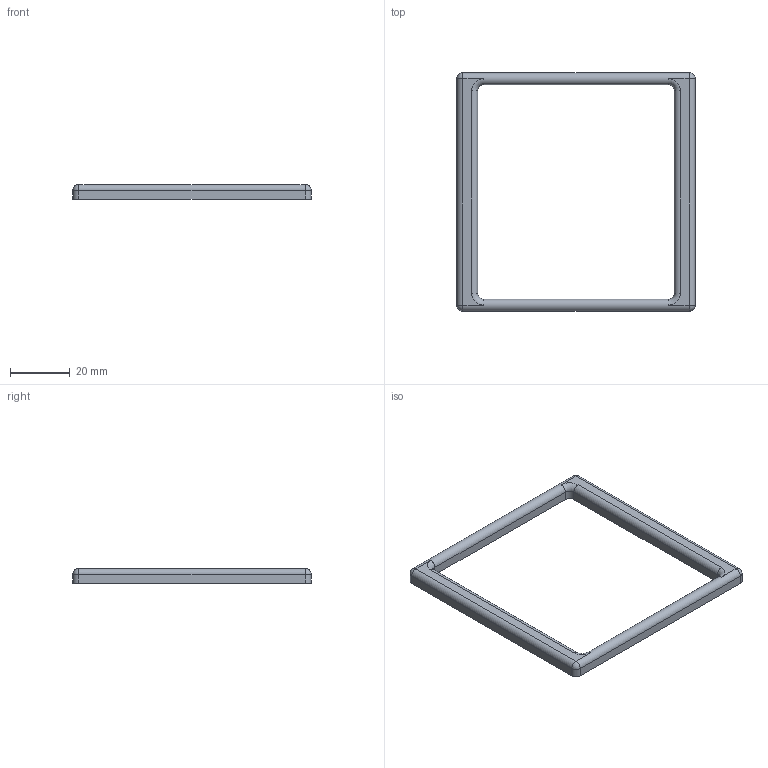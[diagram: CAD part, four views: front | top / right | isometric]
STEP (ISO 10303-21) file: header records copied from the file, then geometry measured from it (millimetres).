
FILE_DESCRIPTION(/* description */ (''),/* implementation_level */ '2;1');
FILE_NAME(/* name */ 'V:\Flow\Inventor\Kontinuierliche Spritzenpumpe\Abdeckung Keypad.stp',/* time_stamp */ '2019-12-20T10:26:17+01:00',/* author */ ('JN'),/* organization */ (''),/* preprocessor_version */ 'ST-DEVELOPER v17',/* originating_system */ 'Autodesk Inventor 2018',/* authorisation */ '');
FILE_SCHEMA (('AUTOMOTIVE_DESIGN { 1 0 10303 214 3 1 1 }'));
Length unit declared in the file: millimetre
Products named in the file (1): Abdeckung Keypad
Bounding box: 80 x 80 x 5 mm (x, y, z)
Volume: 7681.5 mm3; surface area: 5838.6 mm2
Topology: 1 solids, 1 shells, 41 faces, 104 edges, 64 vertices
Faces by surface type: cylinder 18, plane 11, sphere 4, torus 4, cone 4
Full cylindrical faces by diameter (mm): 2 x4
Entity records: 1265 total; most frequent: DIRECTION 236, CARTESIAN_POINT 206, ORIENTED_EDGE 200, EDGE_CURVE 100, AXIS2_PLACEMENT_3D 94, VERTEX_POINT 64, CIRCLE 52, LINE 48
